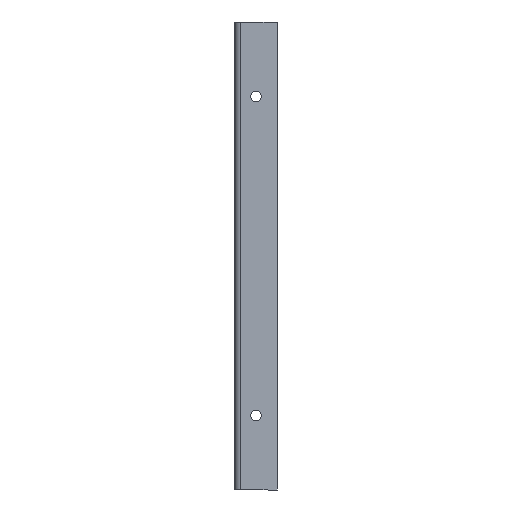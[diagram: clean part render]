
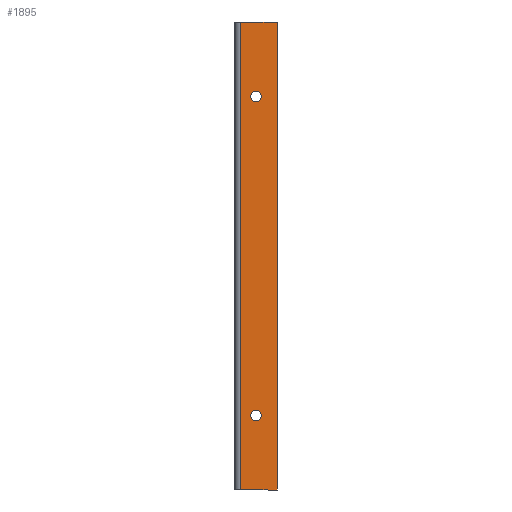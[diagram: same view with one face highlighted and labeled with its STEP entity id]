
A CAD part, front view. The second image highlights one B-rep face of the part: STEP entity #1895.
In plain terms, the highlighted planar face has unit normal (0, -1, 0).
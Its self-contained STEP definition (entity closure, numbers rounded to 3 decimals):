
#24 = CARTESIAN_POINT ( 'NONE',  ( 120., -2., 100. ) ) ;
#54 = EDGE_CURVE ( 'NONE', #1823, #1993, #3279, .T. ) ;
#97 = AXIS2_PLACEMENT_3D ( 'NONE', #2324, #98, #2708 ) ;
#98 = DIRECTION ( 'NONE',  ( 0., -1., 0. ) ) ;
#135 = CARTESIAN_POINT ( 'NONE',  ( 110., -2., -82.5 ) ) ;
#146 = DIRECTION ( 'NONE',  ( 0., -1., 0. ) ) ;
#149 = EDGE_CURVE ( 'NONE', #3688, #1841, #4400, .T. ) ;
#187 = VERTEX_POINT ( 'NONE', #949 ) ;
#427 = VECTOR ( 'NONE', #3441, 1000. ) ;
#486 = VERTEX_POINT ( 'NONE', #135 ) ;
#737 = LINE ( 'NONE', #988, #1567 ) ;
#763 = EDGE_CURVE ( 'NONE', #1841, #3688, #1705, .T. ) ;
#783 = DIRECTION ( 'NONE',  ( 0., -1., 0. ) ) ;
#869 = EDGE_LOOP ( 'NONE', ( #3571, #2266 ) ) ;
#878 = CARTESIAN_POINT ( 'NONE',  ( 120., -2., -120. ) ) ;
#949 = CARTESIAN_POINT ( 'NONE',  ( 102.736, -2., 100. ) ) ;
#988 = CARTESIAN_POINT ( 'NONE',  ( 120., -2., 100. ) ) ;
#1057 = EDGE_CURVE ( 'NONE', #187, #3250, #2405, .T. ) ;
#1084 = CARTESIAN_POINT ( 'NONE',  ( 120., -2., -120. ) ) ;
#1090 = CARTESIAN_POINT ( 'NONE',  ( 110., -2., 65. ) ) ;
#1340 = DIRECTION ( 'NONE',  ( 0., -1., 0. ) ) ;
#1464 = DIRECTION ( 'NONE',  ( 0., 0., -1. ) ) ;
#1567 = VECTOR ( 'NONE', #4696, 1000. ) ;
#1705 = CIRCLE ( 'NONE', #2593, 2.5 ) ;
#1733 = AXIS2_PLACEMENT_3D ( 'NONE', #3883, #146, #4230 ) ;
#1752 = FACE_OUTER_BOUND ( 'NONE', #2778, .T. ) ;
#1771 = CARTESIAN_POINT ( 'NONE',  ( 102.736, -2., 100. ) ) ;
#1800 = EDGE_CURVE ( 'NONE', #3250, #1823, #737, .T. ) ;
#1804 = CARTESIAN_POINT ( 'NONE',  ( 110., -2., -87.5 ) ) ;
#1823 = VERTEX_POINT ( 'NONE', #1084 ) ;
#1841 = VERTEX_POINT ( 'NONE', #4822 ) ;
#1842 = EDGE_CURVE ( 'NONE', #187, #1993, #4391, .T. ) ;
#1875 = DIRECTION ( 'NONE',  ( -1., 0., 0. ) ) ;
#1895 = ADVANCED_FACE ( 'NONE', ( #4857, #2725, #1752 ), #2531, .T. ) ;
#1922 = ORIENTED_EDGE ( 'NONE', *, *, #763, .F. ) ;
#1964 = ORIENTED_EDGE ( 'NONE', *, *, #1800, .F. ) ;
#1993 = VERTEX_POINT ( 'NONE', #4593 ) ;
#2135 = ORIENTED_EDGE ( 'NONE', *, *, #1842, .T. ) ;
#2146 = DIRECTION ( 'NONE',  ( 0., 0., -1. ) ) ;
#2266 = ORIENTED_EDGE ( 'NONE', *, *, #3256, .F. ) ;
#2324 = CARTESIAN_POINT ( 'NONE',  ( 110., -2., -85. ) ) ;
#2339 = CARTESIAN_POINT ( 'NONE',  ( 120., -2., 100. ) ) ;
#2369 = VECTOR ( 'NONE', #2146, 1000. ) ;
#2405 = LINE ( 'NONE', #2687, #427 ) ;
#2531 = PLANE ( 'NONE',  #4190 ) ;
#2593 = AXIS2_PLACEMENT_3D ( 'NONE', #1090, #4116, #1464 ) ;
#2687 = CARTESIAN_POINT ( 'NONE',  ( 120., -2., 100. ) ) ;
#2708 = DIRECTION ( 'NONE',  ( 0., 0., -1. ) ) ;
#2725 = FACE_BOUND ( 'NONE', #3649, .T. ) ;
#2778 = EDGE_LOOP ( 'NONE', ( #4245, #2135, #3203, #1964 ) ) ;
#2987 = ORIENTED_EDGE ( 'NONE', *, *, #149, .F. ) ;
#3186 = DIRECTION ( 'NONE',  ( -1., 0., 0. ) ) ;
#3203 = ORIENTED_EDGE ( 'NONE', *, *, #54, .F. ) ;
#3250 = VERTEX_POINT ( 'NONE', #2339 ) ;
#3256 = EDGE_CURVE ( 'NONE', #4798, #486, #4615, .T. ) ;
#3265 = EDGE_CURVE ( 'NONE', #486, #4798, #3490, .T. ) ;
#3279 = LINE ( 'NONE', #878, #3456 ) ;
#3441 = DIRECTION ( 'NONE',  ( 1., 0., 0. ) ) ;
#3456 = VECTOR ( 'NONE', #3186, 1000. ) ;
#3490 = CIRCLE ( 'NONE', #1733, 2.5 ) ;
#3571 = ORIENTED_EDGE ( 'NONE', *, *, #3265, .F. ) ;
#3635 = CARTESIAN_POINT ( 'NONE',  ( 110., -2., 65. ) ) ;
#3649 = EDGE_LOOP ( 'NONE', ( #1922, #2987 ) ) ;
#3688 = VERTEX_POINT ( 'NONE', #4175 ) ;
#3883 = CARTESIAN_POINT ( 'NONE',  ( 110., -2., -85. ) ) ;
#4014 = AXIS2_PLACEMENT_3D ( 'NONE', #3635, #1340, #4345 ) ;
#4116 = DIRECTION ( 'NONE',  ( 0., -1., 0. ) ) ;
#4175 = CARTESIAN_POINT ( 'NONE',  ( 110., -2., 62.5 ) ) ;
#4190 = AXIS2_PLACEMENT_3D ( 'NONE', #24, #783, #1875 ) ;
#4230 = DIRECTION ( 'NONE',  ( 0., 0., -1. ) ) ;
#4245 = ORIENTED_EDGE ( 'NONE', *, *, #1057, .F. ) ;
#4345 = DIRECTION ( 'NONE',  ( 0., 0., -1. ) ) ;
#4391 = LINE ( 'NONE', #1771, #2369 ) ;
#4400 = CIRCLE ( 'NONE', #4014, 2.5 ) ;
#4593 = CARTESIAN_POINT ( 'NONE',  ( 102.736, -2., -120. ) ) ;
#4615 = CIRCLE ( 'NONE', #97, 2.5 ) ;
#4696 = DIRECTION ( 'NONE',  ( 0., 0., -1. ) ) ;
#4798 = VERTEX_POINT ( 'NONE', #1804 ) ;
#4822 = CARTESIAN_POINT ( 'NONE',  ( 110., -2., 67.5 ) ) ;
#4857 = FACE_BOUND ( 'NONE', #869, .T. ) ;
